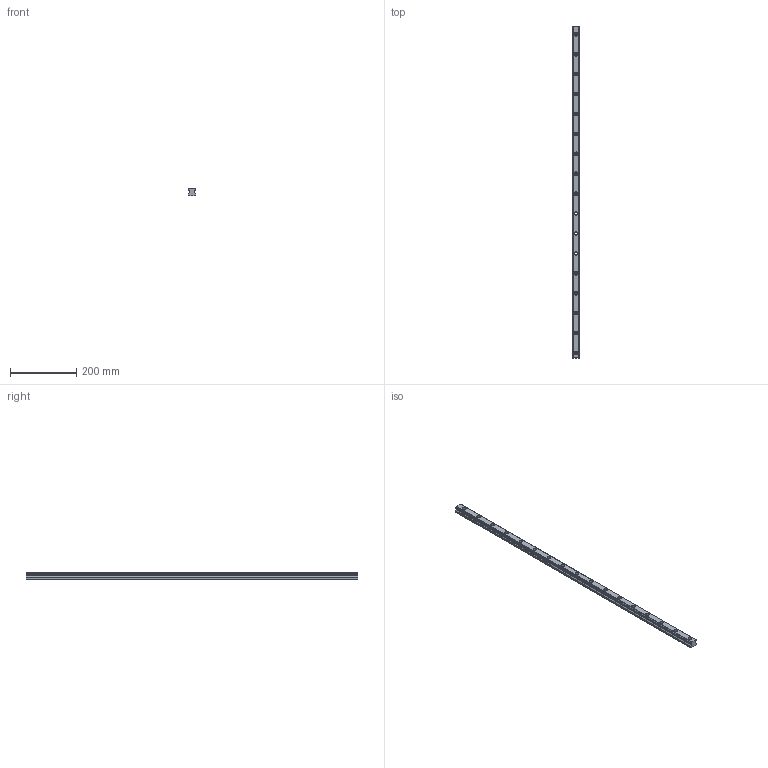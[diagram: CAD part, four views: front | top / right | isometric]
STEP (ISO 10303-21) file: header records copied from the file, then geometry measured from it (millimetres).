
FILE_DESCRIPTION(('STEP AP214'), '1');
FILE_NAME('Ðåëüñîâûå íàïðàâëÿþùèå Hiwin HGR25RC', '', ('UNSPECIFIED'), ('UNSPECIFIED'), 'ASCON STEP Converter 1.6', 'ASCON Math Kernel', '');
FILE_SCHEMA(('AUTOMOTIVE_DESIGN { 1 0 10303 214 3 1 1}'));
Length unit declared in the file: millimetre
Bounding box: 23 x 1000 x 22 mm (x, y, z)
Volume: 413862.9 mm3; surface area: 100824.4 mm2
Topology: 1 solids, 1 shells, 150 faces, 444 edges, 296 vertices
Faces by surface type: plane 94, cylinder 56
Full cylindrical faces by diameter (mm): 7 x17, 11 x17
Entity records: 6230 total; most frequent: CARTESIAN_POINT 1061, DIRECTION 824, ORIENTED_EDGE 820, EDGE_CURVE 410, AXIS2_PLACEMENT_3D 331, VERTEX_POINT 296, EDGE_LOOP 218, CIRCLE 180
